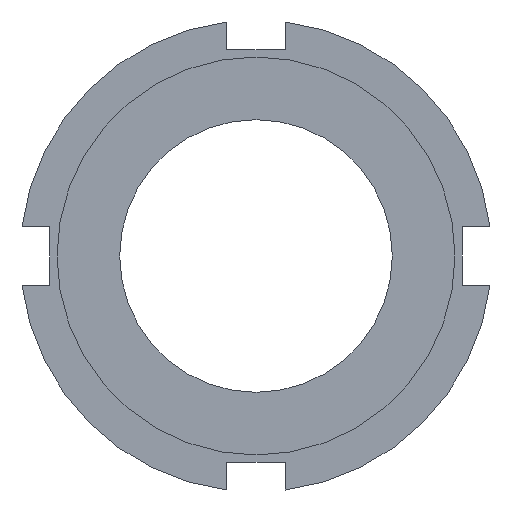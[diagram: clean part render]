
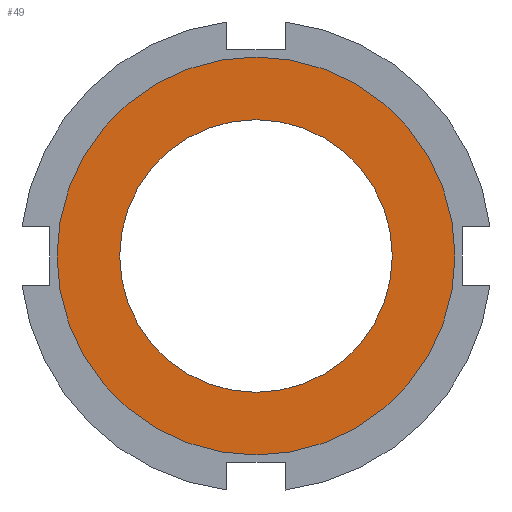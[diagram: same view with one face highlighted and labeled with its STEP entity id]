
A CAD part, left-side view. The second image highlights one B-rep face of the part: STEP entity #49.
In plain terms, the highlighted planar face has unit normal (-1, 0, 0).
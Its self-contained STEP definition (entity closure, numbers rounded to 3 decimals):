
#1 = ORIENTED_EDGE ( 'NONE', *, *, #98, .F. ) ;
#5 = VERTEX_POINT ( 'NONE', #142 ) ;
#27 = EDGE_LOOP ( 'NONE', ( #1, #39 ) ) ;
#39 = ORIENTED_EDGE ( 'NONE', *, *, #470, .F. ) ;
#49 = ADVANCED_FACE ( 'NONE', ( #445, #446 ), #447, .F. ) ;
#86 = VERTEX_POINT ( 'NONE', #286 ) ;
#93 = EDGE_CURVE ( 'NONE', #86, #776, #362, .T. ) ;
#98 = EDGE_CURVE ( 'NONE', #252, #5, #109, .T. ) ;
#109 = CIRCLE ( 'NONE', #110, 9.25 ) ;
#110 = AXIS2_PLACEMENT_3D ( 'NONE', #111, #112, #113 ) ;
#111 = CARTESIAN_POINT ( 'NONE',  ( 0., 0., 0. ) ) ;
#112 = DIRECTION ( 'NONE',  ( -1., 0., 0. ) ) ;
#113 = DIRECTION ( 'NONE',  ( 0., 0., 1. ) ) ;
#142 = CARTESIAN_POINT ( 'NONE',  ( 0., 0., -9.25 ) ) ;
#176 = CARTESIAN_POINT ( 'NONE',  ( 0., 0., 9.25 ) ) ;
#225 = CIRCLE ( 'NONE', #226, 13.5 ) ;
#226 = AXIS2_PLACEMENT_3D ( 'NONE', #227, #228, #229 ) ;
#227 = CARTESIAN_POINT ( 'NONE',  ( 0., 0., 0. ) ) ;
#228 = DIRECTION ( 'NONE',  ( -1., 0., 0. ) ) ;
#229 = DIRECTION ( 'NONE',  ( 0., 0., 1. ) ) ;
#242 = CARTESIAN_POINT ( 'NONE',  ( 0., 0., 13.5 ) ) ;
#252 = VERTEX_POINT ( 'NONE', #176 ) ;
#277 = CIRCLE ( 'NONE', #278, 9.25 ) ;
#278 = AXIS2_PLACEMENT_3D ( 'NONE', #279, #280, #281 ) ;
#279 = CARTESIAN_POINT ( 'NONE',  ( 0., 0., 0. ) ) ;
#280 = DIRECTION ( 'NONE',  ( -1., 0., 0. ) ) ;
#281 = DIRECTION ( 'NONE',  ( 0., 0., 1. ) ) ;
#286 = CARTESIAN_POINT ( 'NONE',  ( 0., 0., -13.5 ) ) ;
#360 = EDGE_CURVE ( 'NONE', #776, #86, #225, .T. ) ;
#362 = CIRCLE ( 'NONE', #363, 13.5 ) ;
#363 = AXIS2_PLACEMENT_3D ( 'NONE', #364, #365, #366 ) ;
#364 = CARTESIAN_POINT ( 'NONE',  ( 0., 0., 0. ) ) ;
#365 = DIRECTION ( 'NONE',  ( -1., 0., 0. ) ) ;
#366 = DIRECTION ( 'NONE',  ( 0., 0., 1. ) ) ;
#445 = FACE_BOUND ( 'NONE', #27, .T. ) ;
#446 = FACE_OUTER_BOUND ( 'NONE', #785, .T. ) ;
#447 = PLANE ( 'NONE',  #448 ) ;
#448 = AXIS2_PLACEMENT_3D ( 'NONE', #449, #450, #454 ) ;
#449 = CARTESIAN_POINT ( 'NONE',  ( 0., 9.25, 0. ) ) ;
#450 = DIRECTION ( 'NONE',  ( 1., 0., 0. ) ) ;
#454 = DIRECTION ( 'NONE',  ( 0., 0., -1. ) ) ;
#470 = EDGE_CURVE ( 'NONE', #5, #252, #277, .T. ) ;
#638 = ORIENTED_EDGE ( 'NONE', *, *, #93, .T. ) ;
#750 = ORIENTED_EDGE ( 'NONE', *, *, #360, .T. ) ;
#776 = VERTEX_POINT ( 'NONE', #242 ) ;
#785 = EDGE_LOOP ( 'NONE', ( #750, #638 ) ) ;
